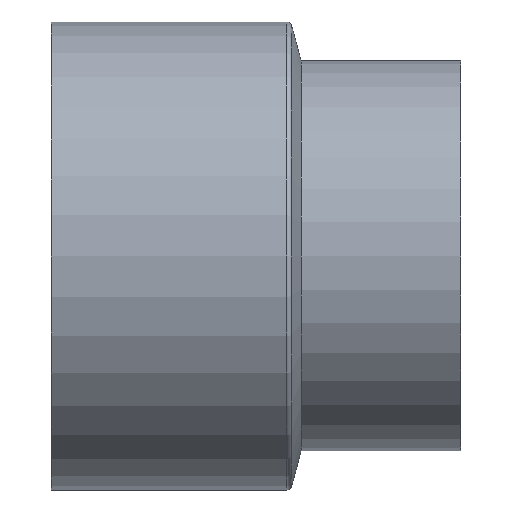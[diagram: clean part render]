
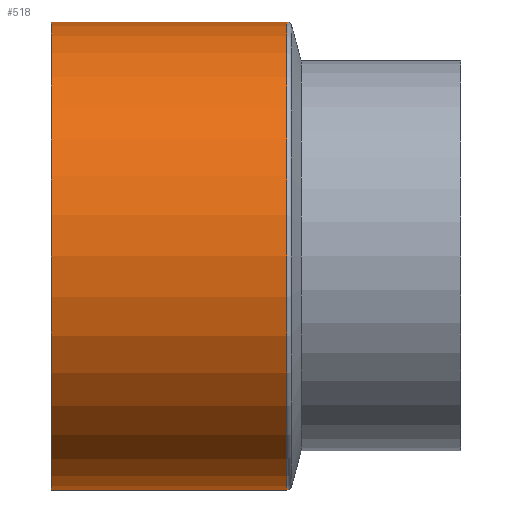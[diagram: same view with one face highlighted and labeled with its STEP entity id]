
A CAD part, front view. The second image highlights one B-rep face of the part: STEP entity #518.
In plain terms, the highlighted cylindrical face has radius 38.1 mm (diameter 76.2 mm), a partial arc.
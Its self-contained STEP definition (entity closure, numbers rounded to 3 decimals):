
#2 = VERTEX_POINT ( 'NONE', #408 ) ;
#3 = EDGE_CURVE ( 'NONE', #251, #2, #229, .T. ) ;
#16 = DIRECTION ( 'NONE',  ( 1., 0., 0. ) ) ;
#33 = EDGE_CURVE ( 'NONE', #147, #2, #329, .T. ) ;
#36 = VECTOR ( 'NONE', #55, 1000. ) ;
#55 = DIRECTION ( 'NONE',  ( 1., 0., 0. ) ) ;
#66 = DIRECTION ( 'NONE',  ( 0., 0., -1. ) ) ;
#106 = CARTESIAN_POINT ( 'NONE',  ( -66.675, 0., -38.1 ) ) ;
#117 = AXIS2_PLACEMENT_3D ( 'NONE', #339, #378, #66 ) ;
#128 = CIRCLE ( 'NONE', #192, 38.1 ) ;
#137 = CARTESIAN_POINT ( 'NONE',  ( 0., 0., -38.1 ) ) ;
#147 = VERTEX_POINT ( 'NONE', #322 ) ;
#174 = DIRECTION ( 'NONE',  ( -1., 0., 0. ) ) ;
#177 = ORIENTED_EDGE ( 'NONE', *, *, #3, .T. ) ;
#192 = AXIS2_PLACEMENT_3D ( 'NONE', #477, #285, #517 ) ;
#220 = CYLINDRICAL_SURFACE ( 'NONE', #117, 38.1 ) ;
#229 = CIRCLE ( 'NONE', #379, 38.1 ) ;
#251 = VERTEX_POINT ( 'NONE', #430 ) ;
#267 = ORIENTED_EDGE ( 'NONE', *, *, #33, .F. ) ;
#283 = EDGE_CURVE ( 'NONE', #147, #287, #128, .T. ) ;
#285 = DIRECTION ( 'NONE',  ( 1., 0., 0. ) ) ;
#287 = VERTEX_POINT ( 'NONE', #106 ) ;
#314 = EDGE_LOOP ( 'NONE', ( #267, #350, #412, #177 ) ) ;
#322 = CARTESIAN_POINT ( 'NONE',  ( -66.675, 0., 38.1 ) ) ;
#329 = LINE ( 'NONE', #336, #36 ) ;
#336 = CARTESIAN_POINT ( 'NONE',  ( 0., 0., 38.1 ) ) ;
#339 = CARTESIAN_POINT ( 'NONE',  ( 0., 0., 0. ) ) ;
#350 = ORIENTED_EDGE ( 'NONE', *, *, #283, .T. ) ;
#377 = VECTOR ( 'NONE', #16, 1000. ) ;
#378 = DIRECTION ( 'NONE',  ( 1., 0., 0. ) ) ;
#379 = AXIS2_PLACEMENT_3D ( 'NONE', #446, #174, #450 ) ;
#382 = EDGE_CURVE ( 'NONE', #287, #251, #397, .T. ) ;
#397 = LINE ( 'NONE', #137, #377 ) ;
#408 = CARTESIAN_POINT ( 'NONE',  ( -28.315, 0., 38.1 ) ) ;
#412 = ORIENTED_EDGE ( 'NONE', *, *, #382, .T. ) ;
#430 = CARTESIAN_POINT ( 'NONE',  ( -28.315, 0., -38.1 ) ) ;
#446 = CARTESIAN_POINT ( 'NONE',  ( -28.315, 0., 0. ) ) ;
#450 = DIRECTION ( 'NONE',  ( 0., 0., 1. ) ) ;
#477 = CARTESIAN_POINT ( 'NONE',  ( -66.675, 0., 0. ) ) ;
#494 = FACE_OUTER_BOUND ( 'NONE', #314, .T. ) ;
#517 = DIRECTION ( 'NONE',  ( 0., 0., -1. ) ) ;
#518 = ADVANCED_FACE ( 'NONE', ( #494 ), #220, .T. ) ;
